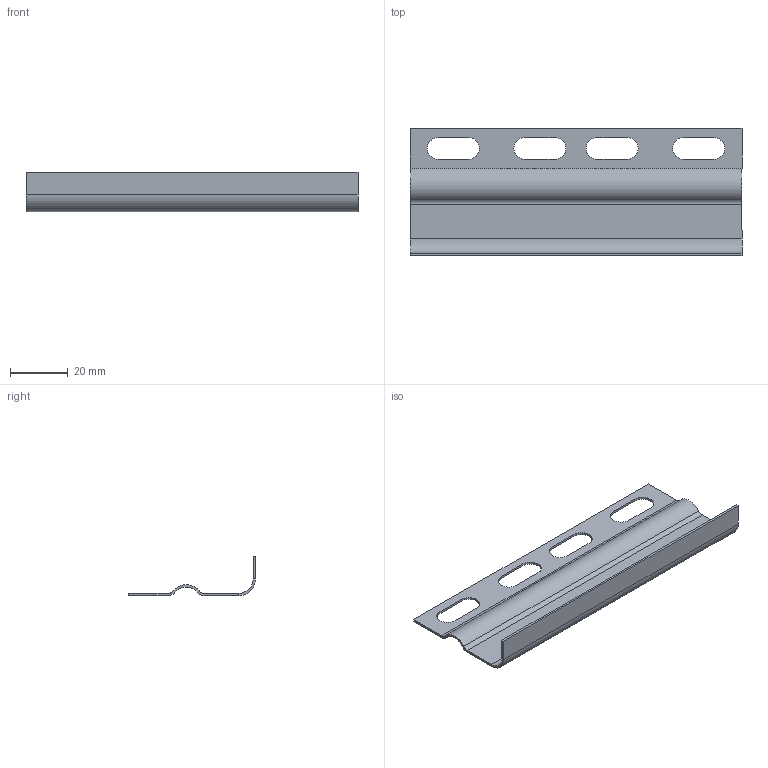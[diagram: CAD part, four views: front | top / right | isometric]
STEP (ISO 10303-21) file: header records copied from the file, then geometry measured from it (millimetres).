
FILE_DESCRIPTION (( 'STEP AP203' ), '1' );
FILE_NAME ('ERE_JUER 35.step', '2023-07-28T14:50:33', ( '' ), ( '' ), 'SwSTEP 2.0', 'SolidWorks 2022', '' );
FILE_SCHEMA (( 'CONFIG_CONTROL_DESIGN' ));
Length unit declared in the file: millimetre
Products named in the file (1): ERE_JUER 35
Bounding box: 115 x 44 x 13.62 mm (x, y, z)
Volume: 4790.2 mm3; surface area: 12392.3 mm2
Topology: 1 solids, 1 shells, 42 faces, 112 edges, 72 vertices
Faces by surface type: plane 22, cylinder 20
Entity records: 1405 total; most frequent: DIRECTION 238, CARTESIAN_POINT 227, ORIENTED_EDGE 224, EDGE_CURVE 112, AXIS2_PLACEMENT_3D 83, VERTEX_POINT 72, VECTOR 72, LINE 72
